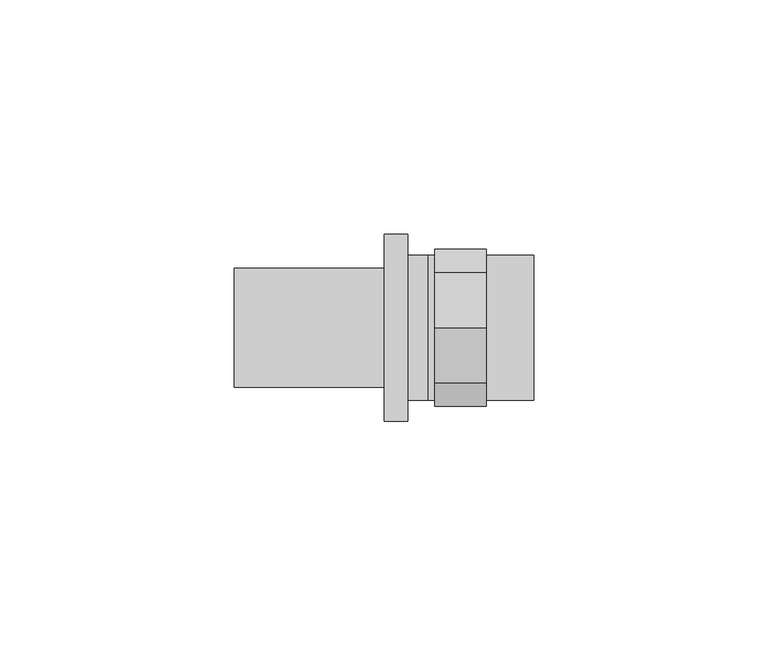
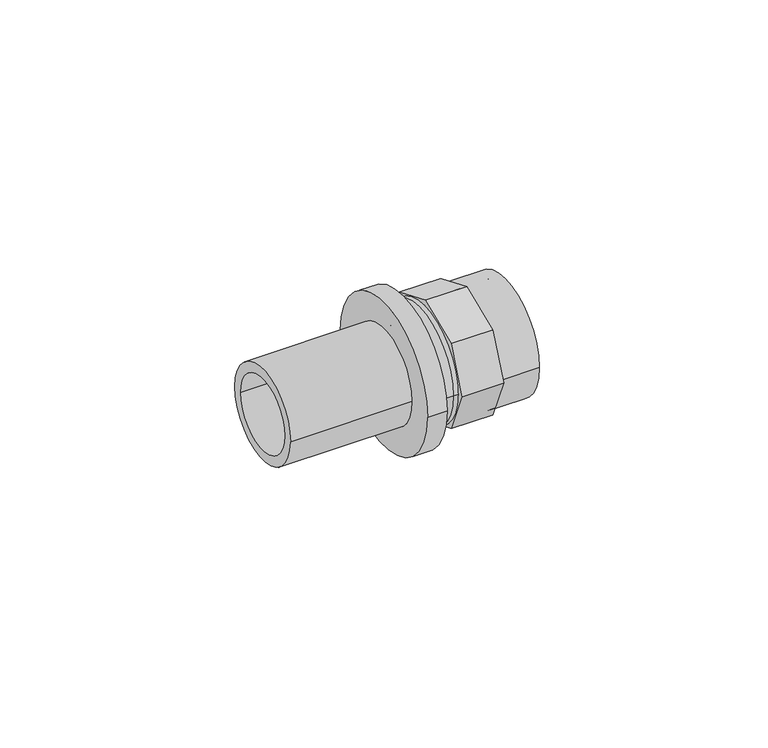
"""IFC4 building model written with IfcOpenShell, lengths in millimetres: pipe fitting geometry, REHAU_RAUTITAN_Adaptor_RX+, with internal thread : REHAU_RAUTITAN_Adaptor_RX+, with internal thread."""

import ifcopenshell
import ifcopenshell.guid

model = None  # the IFC model being written
_history = None  # IfcOwnerHistory: only IFC2X3 demands one
_inside = {}  # id of a spatial element -> (the spatial element, [elements in it])
_under = {}  # id of a project, library or spatial element -> (it, [spatial elements below it])
_declared = {}  # id of a project -> (the project, [libraries it declares])
_typed = {}  # id of a type object -> (the type object, [elements of that type])
_made_of = {}  # id of a material, layer set ... -> (it, [elements and type objects made of it])


def new_model(schema):
    """Start an empty IFC model of exactly this schema.

    Asked for "IFC4X3", IfcOpenShell would pick the latest addendum, in which some entities
    have other attributes; the version numbers below select the first issue.
    IFC2X3 requires an IfcOwnerHistory on every rooted entity: one is made here for all.
    """
    global model, _history
    if schema == "IFC4X3":
        model = ifcopenshell.file(schema_version=(4, 3, 0, 0))
    else:
        model = ifcopenshell.file(schema=schema)
    _inside.clear()
    _under.clear()
    _declared.clear()
    _typed.clear()
    _made_of.clear()
    _history = None
    if model.schema == "IFC2X3":
        org = make("IfcOrganization", Name="unknown")
        user = make(
            "IfcPersonAndOrganization",
            ThePerson=make("IfcPerson", FamilyName="unknown"),
            TheOrganization=org,
        )
        app = make(
            "IfcApplication",
            ApplicationDeveloper=org,
            Version="unknown",
            ApplicationFullName="unknown",
            ApplicationIdentifier="unknown",
        )
        _history = make(
            "IfcOwnerHistory",
            OwningUser=user,
            OwningApplication=app,
            ChangeAction="ADDED",
            CreationDate=0,
        )
    return model


def make(cls, **values):
    """One entity of the class cls with the attributes given. An attribute that is None is left unset."""
    return model.create_entity(
        cls, **{name: value for name, value in values.items() if value is not None}
    )


def rooted(cls, **values):
    """An entity with a GlobalId (a new one), such as an element, a storey or a relation."""
    return make(cls, GlobalId=ifcopenshell.guid.new(), OwnerHistory=_history, **values)


def si_unit(unit_type, name, prefix=None):
    """IfcSIUnit, for example si_unit("LENGTHUNIT", "METRE", prefix="MILLI")."""
    return make("IfcSIUnit", UnitType=unit_type, Prefix=prefix, Name=name)


def assignment(units):
    """IfcUnitAssignment: the units of a project."""
    return None if units is None else make("IfcUnitAssignment", Units=units)


def point(xyz):
    """IfcCartesianPoint."""
    return None if xyz is None else make("IfcCartesianPoint", Coordinates=xyz)


def direction(xyz):
    """IfcDirection."""
    return None if xyz is None else make("IfcDirection", DirectionRatios=xyz)


def frame(location, z_axis=None, x_axis=None):
    """IfcAxis2Placement3D, a coordinate frame: its origin and axes. An axis left out is left unset."""
    return make(
        "IfcAxis2Placement3D",
        Location=point(location),
        Axis=direction(z_axis),
        RefDirection=direction(x_axis),
    )


def frame_2d(location, x_axis=None):
    """IfcAxis2Placement2D, a coordinate frame in the plane: its origin and x axis."""
    return make(
        "IfcAxis2Placement2D", Location=point(location), RefDirection=direction(x_axis)
    )


def origin():
    """The frame at (0, 0, 0) with its axes left unset."""
    return frame((0.0, 0.0, 0.0))


def origin_2d():
    """The frame at (0, 0) in the plane with its x axis left unset."""
    return frame_2d((0.0, 0.0))


def place(relative_to, where):
    """IfcLocalPlacement: puts the frame where relative to a parent placement (None: the world)."""
    return make(
        "IfcLocalPlacement", PlacementRelTo=relative_to, RelativePlacement=where
    )


def context(
    kind, dimensions, precision=None, world=None, true_north=None, identifier=None
):
    """IfcGeometricRepresentationContext, for example the 3D "Model" context."""
    return make(
        "IfcGeometricRepresentationContext",
        ContextIdentifier=identifier,
        ContextType=kind,
        CoordinateSpaceDimension=dimensions,
        Precision=precision,
        WorldCoordinateSystem=world,
        TrueNorth=true_north,
    )


def project(units=None, contexts=None):
    """IfcProject with its units and contexts."""
    return rooted(
        "IfcProject",
        Name="project",
        RepresentationContexts=contexts,
        UnitsInContext=assignment(units),
    )


def spatial(cls, under=None, at=None, **own):
    """A site, building, storey or space (cls), placed at a placement, below another one or the project."""
    s = rooted(cls, ObjectPlacement=at, **own)
    if under is not None:
        _under.setdefault(under.id(), (under, []))[1].append(s)
    return s


def polyline(points):
    """IfcPolyline through the points."""
    return make("IfcPolyline", Points=[point(p) for p in points])


def circle_curve(where, radius):
    """IfcCircle in the frame where."""
    return make("IfcCircle", Position=where, Radius=radius)


def trimmed(basis, trim1, trim2, sense, master):
    """IfcTrimmedCurve: the piece of a basis curve between two trims."""
    return make(
        "IfcTrimmedCurve",
        BasisCurve=basis,
        Trim1=trim1,
        Trim2=trim2,
        SenseAgreement=sense,
        MasterRepresentation=master,
    )


def segment(curve, same_sense, transition):
    """IfcCompositeCurveSegment."""
    return make(
        "IfcCompositeCurveSegment",
        Transition=transition,
        SameSense=same_sense,
        ParentCurve=curve,
    )


def composite_curve(segments, self_intersect=None):
    """IfcCompositeCurve: segments joined end to end."""
    return make("IfcCompositeCurve", Segments=segments, SelfIntersect=self_intersect)


def outline(outer, holes=None, kind="AREA"):
    """IfcArbitraryClosedProfileDef: a profile drawn as a closed curve; with holes, ...WithVoids."""
    if holes is None:
        return make("IfcArbitraryClosedProfileDef", ProfileType=kind, OuterCurve=outer)
    return make(
        "IfcArbitraryProfileDefWithVoids",
        ProfileType=kind,
        OuterCurve=outer,
        InnerCurves=holes,
    )


def extrude(swept, where, along, depth):
    """IfcExtrudedAreaSolid: the profile swept, set in the frame where, extruded along a direction by depth."""
    return make(
        "IfcExtrudedAreaSolid",
        SweptArea=swept,
        Position=where,
        ExtrudedDirection=direction(along),
        Depth=depth,
    )


def shape(context_of_items, identifier, shape_type, items):
    """IfcShapeRepresentation: the items that make up one representation, for example the "Body"."""
    return make(
        "IfcShapeRepresentation",
        ContextOfItems=context_of_items,
        RepresentationIdentifier=identifier,
        RepresentationType=shape_type,
        Items=items,
    )


def source(mapping_origin, context_of_items, identifier, shape_type, items):
    """IfcRepresentationMap: a shape defined once, which mapped items show again and again."""
    return make(
        "IfcRepresentationMap",
        MappingOrigin=mapping_origin,
        MappedRepresentation=shape(context_of_items, identifier, shape_type, items),
    )


def transform(
    local_origin,
    x_axis=None,
    y_axis=None,
    z_axis=None,
    scale=None,
    scale2=None,
    scale3=None,
    uniform=True,
):
    """IfcCartesianTransformationOperator3D, or its non-uniform kind. x_axis, y_axis, z_axis: its Axis1, 2, 3."""
    if uniform:
        return make(
            "IfcCartesianTransformationOperator3D",
            Axis1=direction(x_axis),
            Axis2=direction(y_axis),
            LocalOrigin=point(local_origin),
            Scale=scale,
            Axis3=direction(z_axis),
        )
    return make(
        "IfcCartesianTransformationOperator3DnonUniform",
        Axis1=direction(x_axis),
        Axis2=direction(y_axis),
        LocalOrigin=point(local_origin),
        Scale=scale,
        Axis3=direction(z_axis),
        Scale2=scale2,
        Scale3=scale3,
    )


def mapped(mapping_source, mapping_target):
    """IfcMappedItem: shows the shape of a source again, moved by a transform."""
    return make(
        "IfcMappedItem", MappingSource=mapping_source, MappingTarget=mapping_target
    )


def made_of(thing, what):
    """Note that an element or type object is made of a material, layer set ...; save() writes the relation."""
    if what is not None:
        _made_of.setdefault(what.id(), (what, []))[1].append(thing)
    return thing


def element(
    cls,
    number,
    at=None,
    inside=None,
    cuts=None,
    type_object=None,
    material=None,
    context=None,
    identifier="Body",
    shape_type=None,
    held_by="IfcProductDefinitionShape",
    body=None,
    shapes=None,
    **own,
):
    """One element of the class cls, such as IfcWall. Its Tag is "e" and its number.

    at: its placement. inside: the storey or other place that contains it. cuts: it is an
    opening in that element (IfcRelVoidsElement). A single representation is given by context,
    identifier, shape_type and body (its items); several are given by shapes. held_by: the class
    of the entity that holds the representations. save() writes the other relations.
    """
    e = rooted(cls, Tag="e%d" % number, ObjectPlacement=at, **own)
    if body is not None:
        shapes = [shape(context, identifier, shape_type, body)]
    if shapes is not None:
        e.Representation = make(held_by, Representations=shapes)
    if inside is not None:
        _inside.setdefault(inside.id(), (inside, []))[1].append(e)
    if cuts is not None:
        rooted(
            "IfcRelVoidsElement", RelatingBuildingElement=cuts, RelatedOpeningElement=e
        )
    if type_object is not None:
        _typed.setdefault(type_object.id(), (type_object, []))[1].append(e)
    return made_of(e, material)


def aggregate(whole, parts):
    """IfcRelAggregates: a whole, such as a stair, and the parts it consists of."""
    return rooted("IfcRelAggregates", RelatingObject=whole, RelatedObjects=parts)


def save(model, path):
    """Write the relations noted so far, then the file.

    IfcRelAggregates (storeys below a building ...), IfcRelContainedInSpatialStructure (elements
    in a storey), IfcRelDefinesByType, IfcRelAssociatesMaterial and IfcRelDeclares: one each for
    every whole, place, type object, material and project.
    """
    for whole, parts in _under.values():
        aggregate(whole, parts)
    for where, things in _inside.values():
        rooted(
            "IfcRelContainedInSpatialStructure",
            RelatedElements=things,
            RelatingStructure=where,
        )
    for kind, things in _typed.values():
        rooted("IfcRelDefinesByType", RelatedObjects=things, RelatingType=kind)
    for what, things in _made_of.values():
        rooted("IfcRelAssociatesMaterial", RelatedObjects=things, RelatingMaterial=what)
    for by, libraries in _declared.values():
        rooted("IfcRelDeclares", RelatingContext=by, RelatedDefinitions=libraries)
    model.write(path)


def plane_surface(at):
    """IfcPlane: the flat surface through the origin of the frame at, square to its z axis."""
    return make("IfcPlane", Position=at)


def cylinder_surface(at, radius):
    """IfcCylindricalSurface: all points at the distance radius from the z axis of the frame at."""
    return make("IfcCylindricalSurface", Position=at, Radius=radius)


def revolved_surface(curve, axis_point, axis_direction):
    """IfcSurfaceOfRevolution: the curve turned about the line through axis_point along axis_direction."""
    return make(
        "IfcSurfaceOfRevolution",
        SweptCurve=make("IfcArbitraryOpenProfileDef", ProfileType="CURVE", Curve=curve),
        AxisPosition=make("IfcAxis1Placement", Location=point(axis_point), Axis=direction(axis_direction)),
    )


def advanced_brep(points, edges, surfaces, faces):
    """IfcAdvancedBrep: a solid bounded by faces that lie on surfaces and meet in shared edges.

    An edge is (start, end): straight between two places in points (the first is 0);
    or (start, end, curve); or (start, end, curve, False) where it runs against its curve.
    A face is (place in surfaces, loops), or (place, loops, False) where it looks against
    its surface's normal. A loop lists edges by number (the first is 1), with a minus sign
    where the edge is run from its end to its start. The first loop is the outer one.
    """
    corners = [point(p) for p in points]
    vertices = [make("IfcVertexPoint", VertexGeometry=c) for c in corners]
    made = []
    for start, end, *more in edges:
        made.append(
            make(
                "IfcEdgeCurve",
                EdgeStart=vertices[start],
                EdgeEnd=vertices[end],
                EdgeGeometry=more[0] if more else make("IfcPolyline", Points=[corners[start], corners[end]]),
                SameSense=more[1] if len(more) > 1 else True,
            )
        )
    hull = []
    for where, loops, *sense in faces:
        bounds = []
        for j, loop in enumerate(loops):
            ring = [make("IfcOrientedEdge", EdgeElement=made[abs(k) - 1], Orientation=k > 0) for k in loop]
            bounds.append(
                make(
                    "IfcFaceOuterBound" if j == 0 else "IfcFaceBound",
                    Bound=make("IfcEdgeLoop", EdgeList=ring),
                    Orientation=True,
                )
            )
        hull.append(make("IfcAdvancedFace", Bounds=bounds, FaceSurface=surfaces[where], SameSense=sense[0] if sense else True))
    return make("IfcAdvancedBrep", Outer=make("IfcClosedShell", CfsFaces=hull))


def pipe_fitting_206183e9(model_context):
    return source(origin(), model_context, "Body", "SolidModel", [
        extrude(outline(polyline([(-11.8631864, 11.8631864), (0.0, 16.7770791), (11.8631864, 11.8631864), (16.7770791, 0.0), (11.8631864, -11.8631864), (0.0, -16.7770791), (-11.8631864, -11.8631864), (-16.7770791, 0.0), (-11.8631864, 11.8631864)]), holes=[composite_curve([segment(trimmed(circle_curve(origin_2d(), 9.5), [point((-9.5, 0.0))], [point((9.5, 0.0))], True, "CARTESIAN"), True, "CONTINUOUS"), segment(trimmed(circle_curve(origin_2d(), 9.5), [point((9.5, 0.0))], [point((-9.5, 0.0))], True, "CARTESIAN"), True, "CONTINUOUS")], self_intersect=False)]), frame((-5.5, 0.0, 0.0), z_axis=(1.0, 0.0, 0.0), x_axis=(0.0, 1.0, 0.0)), (0.0, 0.0, 1.0), 11.0),
        extrude(outline(composite_curve([segment(trimmed(circle_curve(origin_2d(), 15.5), [point((-15.5, 0.0))], [point((15.5, 0.0))], False, "CARTESIAN"), True, "CONTINUOUS"), segment(trimmed(circle_curve(origin_2d(), 15.5), [point((15.5, 0.0))], [point((-15.5, 0.0))], False, "CARTESIAN"), True, "CONTINUOUS")], self_intersect=False), holes=[composite_curve([segment(trimmed(circle_curve(origin_2d(), 13.09), [point((-13.09, 0.0))], [point((13.09, 0.0))], True, "CARTESIAN"), True, "CONTINUOUS"), segment(trimmed(circle_curve(origin_2d(), 13.09), [point((13.09, 0.0))], [point((-13.09, 0.0))], True, "CARTESIAN"), True, "CONTINUOUS")], self_intersect=False)]), frame((5.5, 0.0, 0.0), z_axis=(1.0, 0.0, 0.0), x_axis=(0.0, 1.0, 0.0)), (0.0, 0.0, 1.0), 10.14),
        advanced_brep(
        [(-7.01, 15.5, 0.0), (-7.01, -15.5, 0.0), (-11.27, -15.5, 0.0), (-11.27, 15.5, 0.0), (-5.36, 15.5, 0.0), (-5.36, -15.5, 0.0), (-7.01, 13.3, 0.0), (-7.01, -13.3, 0.0), (-5.36, -13.09, 0.0), (-5.36, 13.09, 0.0), (-48.36, 10.0, 0.0), (-48.36, -10.0, 0.0), (-11.27, -10.0, 0.0), (-11.27, 10.0, 0.0), (-16.36, 12.725, 0.0), (-16.36, -12.725, 0.0), (-48.36, -12.725, 0.0), (-48.36, 12.725, 0.0), (-11.27, 20.0, 0.0), (-11.27, -20.0, 0.0), (-16.36, -20.0, 0.0), (-16.36, 20.0, 0.0)],
        [
            (0, 1, circle_curve(frame((-7.01, 0.0, 0.0), z_axis=(-1.0, 0.0, 0.0), x_axis=(0.0, -1.0, 0.0)), 15.5)),
            (1, 2),
            (2, 3, circle_curve(frame((-11.27, 0.0, 0.0), z_axis=(1.0, 0.0, 0.0), x_axis=(0.0, -1.0, 0.0)), 15.5)),
            (3, 0),
            (4, 5, circle_curve(frame((-5.36, 0.0, 0.0), z_axis=(-1.0, 0.0, 0.0), x_axis=(0.0, -1.0, 0.0)), 15.5)),
            (5, 1),
            (0, 4),
            (6, 7, circle_curve(frame((-7.01, 0.0, 0.0), z_axis=(-1.0, 0.0, 0.0), x_axis=(0.0, -1.0, 0.0)), 13.3)),
            (7, 8),
            (8, 9, circle_curve(frame((-5.36, 0.0, 0.0), z_axis=(1.0, 0.0, 0.0), x_axis=(0.0, -1.0, 0.0)), 13.09)),
            (9, 6),
            (10, 11, circle_curve(frame((-48.36, 0.0, 0.0), z_axis=(-1.0, 0.0, 0.0), x_axis=(0.0, -1.0, 0.0)), 10.0)),
            (11, 12),
            (12, 13, circle_curve(frame((-11.27, 0.0, 0.0), z_axis=(1.0, 0.0, 0.0), x_axis=(0.0, -1.0, 0.0)), 10.0)),
            (13, 10),
            (14, 15, circle_curve(frame((-16.36, 0.0, 0.0), z_axis=(-1.0, 0.0, 0.0), x_axis=(0.0, -1.0, 0.0)), 12.725)),
            (15, 16),
            (16, 17, circle_curve(frame((-48.36, 0.0, 0.0), z_axis=(1.0, 0.0, 0.0), x_axis=(0.0, -1.0, 0.0)), 12.725)),
            (17, 14),
            (18, 19, circle_curve(frame((-11.27, 0.0, 0.0), z_axis=(-1.0, 0.0, 0.0), x_axis=(0.0, -1.0, 0.0)), 20.0)),
            (19, 20),
            (20, 21, circle_curve(frame((-16.36, 0.0, 0.0), z_axis=(1.0, 0.0, 0.0), x_axis=(0.0, -1.0, 0.0)), 20.0)),
            (21, 18),
            (18, 19, circle_curve(frame((-11.27, 0.0, 0.0), z_axis=(1.0, 0.0, 0.0), x_axis=(0.0, 1.0, 0.0)), 20.0)),
            (2, 3, circle_curve(frame((-11.27, 0.0, 0.0), z_axis=(-1.0, 0.0, 0.0), x_axis=(0.0, 1.0, 0.0)), 15.5)),
            (1, 0, circle_curve(frame((-7.01, 0.0, 0.0), z_axis=(-1.0, 0.0, 0.0), x_axis=(0.0, 1.0, 0.0)), 15.5)),
            (5, 4, circle_curve(frame((-5.36, 0.0, 0.0), z_axis=(-1.0, 0.0, 0.0), x_axis=(0.0, 1.0, 0.0)), 15.5)),
            (7, 6, circle_curve(frame((-7.01, 0.0, 0.0), z_axis=(-1.0, 0.0, 0.0), x_axis=(0.0, 1.0, 0.0)), 13.3)),
            (9, 8, circle_curve(frame((-5.36, 0.0, 0.0), z_axis=(1.0, 0.0, 0.0), x_axis=(0.0, 1.0, 0.0)), 13.09)),
            (11, 10, circle_curve(frame((-48.36, 0.0, 0.0), z_axis=(-1.0, 0.0, 0.0), x_axis=(0.0, 1.0, 0.0)), 10.0)),
            (13, 12, circle_curve(frame((-11.27, 0.0, 0.0), z_axis=(1.0, 0.0, 0.0), x_axis=(0.0, 1.0, 0.0)), 10.0)),
            (16, 17, circle_curve(frame((-48.36, 0.0, 0.0), z_axis=(-1.0, 0.0, 0.0), x_axis=(0.0, 1.0, 0.0)), 12.725)),
            (15, 14, circle_curve(frame((-16.36, 0.0, 0.0), z_axis=(-1.0, 0.0, 0.0), x_axis=(0.0, 1.0, 0.0)), 12.725)),
            (20, 21, circle_curve(frame((-16.36, 0.0, 0.0), z_axis=(-1.0, 0.0, 0.0), x_axis=(0.0, 1.0, 0.0)), 20.0)),
            (12, 7),
            (6, 13),
        ],
        [
            cylinder_surface(frame((0.0, 0.0, 0.0), z_axis=(1.0, 0.0, 0.0), x_axis=(0.0, -1.0, 0.0)), 15.5),
            revolved_surface(polyline([(-5.36, -13.09, 0.0), (-7.01, -13.3, 0.0)]), (0.0, 0.0, 0.0), (1.0, 0.0, 0.0)),
            revolved_surface(polyline([(-11.27, -10.0, 0.0), (-48.36, -10.0, 0.0)]), (0.0, 0.0, 0.0), (1.0, 0.0, 0.0)),
            cylinder_surface(frame((0.0, 0.0, 0.0), z_axis=(1.0, 0.0, 0.0), x_axis=(0.0, -1.0, 0.0)), 12.725),
            cylinder_surface(frame((0.0, 0.0, 0.0), z_axis=(1.0, 0.0, 0.0), x_axis=(0.0, -1.0, 0.0)), 20.0),
            plane_surface(frame((-11.27, 0.0, 0.0), z_axis=(1.0, 0.0, 0.0), x_axis=(0.0, 1.0, 0.0))),
            cylinder_surface(frame((0.0, 0.0, 0.0), z_axis=(1.0, 0.0, 0.0), x_axis=(0.0, 1.0, 0.0)), 15.5),
            revolved_surface(polyline([(-5.36, 13.09, 0.0), (-7.01, 13.3, 0.0)]), (0.0, 0.0, 0.0), (1.0, 0.0, 0.0)),
            revolved_surface(polyline([(-11.27, 10.0, 0.0), (-48.36, 10.0, 0.0)]), (0.0, 0.0, 0.0), (1.0, 0.0, 0.0)),
            plane_surface(frame((-48.36, 0.0, 0.0), z_axis=(-1.0, 0.0, 0.0), x_axis=(0.0, 1.0, 0.0))),
            cylinder_surface(frame((0.0, 0.0, 0.0), z_axis=(1.0, 0.0, 0.0), x_axis=(0.0, 1.0, 0.0)), 12.725),
            plane_surface(frame((-16.36, 0.0, 0.0), z_axis=(-1.0, 0.0, 0.0), x_axis=(0.0, 1.0, 0.0))),
            cylinder_surface(frame((0.0, 0.0, 0.0), z_axis=(1.0, 0.0, 0.0), x_axis=(0.0, 1.0, 0.0)), 20.0),
            revolved_surface(polyline([(-7.01, -13.3, 0.0), (-11.27, -10.0, 0.0)]), (0.0, 0.0, 0.0), (1.0, 0.0, 0.0)),
            revolved_surface(polyline([(-7.01, 13.3, 0.0), (-11.27, 10.0, 0.0)]), (0.0, 0.0, 0.0), (1.0, 0.0, 0.0)),
            plane_surface(frame((-5.36, 0.0, 0.0), z_axis=(1.0, 0.0, 0.0), x_axis=(0.0, 1.0, 0.0))),
        ],
        [
            (0, [[1, 2, 3, 4]]),
            (0, [[5, 6, -1, 7]]),
            (1, [[8, 9, 10, 11]]),
            (2, [[12, 13, 14, 15]]),
            (3, [[16, 17, 18, 19]]),
            (4, [[20, 21, 22, 23]]),
            (5, [[24, -20], [25, -3]]),
            (6, [[26, -4, -25, -2]]),
            (6, [[27, -7, -26, -6]]),
            (7, [[28, -11, 29, -9]]),
            (8, [[30, -15, 31, -13]]),
            (9, [[32, -18], [-30, -12]]),
            (10, [[33, -19, -32, -17]]),
            (11, [[34, -22], [-33, -16]]),
            (12, [[-24, -23, -34, -21]]),
            (13, [[-14, 35, -8, 36]]),
            (14, [[-31, -36, -28, -35]]),
            (15, [[-27, -5], [-29, -10]]),
        ],
    ),
    ])


if __name__ == "__main__":
    model = new_model("IFC4")
    model_context = context("Model", 3, world=origin())
    ifc_project = project(units=[si_unit("LENGTHUNIT", "METRE", prefix="MILLI")], contexts=[model_context])
    site = spatial("IfcSite", under=ifc_project)
    building = spatial("IfcBuilding", under=site)
    placement = place(None, origin())
    pipe_fitting_shape = pipe_fitting_206183e9(model_context)
    element("IfcPipeFitting", 1, ObjectType="REHAU_RAUTITAN_Adaptor_RX+, with internal thread : REHAU_RAUTITAN_Adaptor_RX+, with internal thread", at=placement, inside=building, context=model_context, shape_type="MappedRepresentation", body=[
        mapped(pipe_fitting_shape, transform((0.0, 0.0, 0.0), x_axis=(1.0, 0.0, 0.0), y_axis=(0.0, 1.0, 0.0), z_axis=(0.0, 0.0, 1.0))),
    ])
    save(model, "model.ifc")
